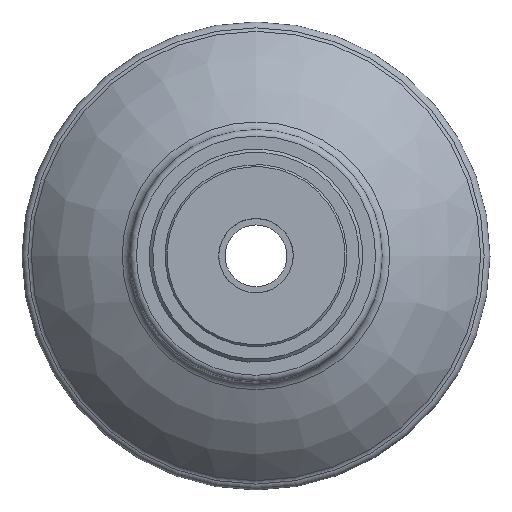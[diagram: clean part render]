
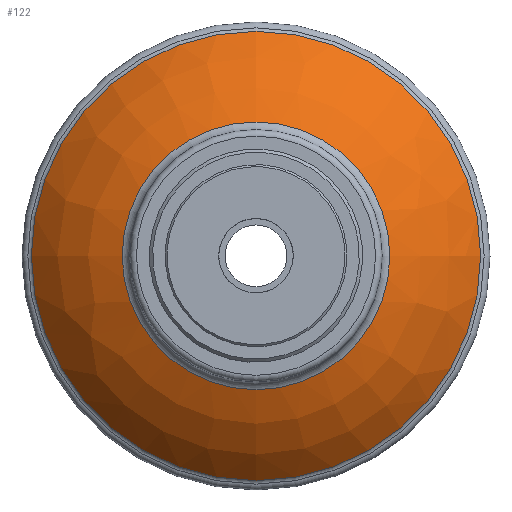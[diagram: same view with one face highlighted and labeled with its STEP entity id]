
A CAD part, top view. The second image highlights one B-rep face of the part: STEP entity #122.
In plain terms, the highlighted free-form (B-spline) face has degree [3, 3] with [4, 7] control points.
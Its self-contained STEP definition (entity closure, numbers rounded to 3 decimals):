
#122 = ADVANCED_FACE( '', ( #280, #281 ), #282, .T. );
#280 = FACE_OUTER_BOUND( '', #546, .T. );
#281 = FACE_OUTER_BOUND( '', #547, .T. );
#282 = ( BOUNDED_SURFACE(  )B_SPLINE_SURFACE( 3, 3, ( ( #550, #551, #552, #553, #554, #555, #556 ), ( #557, #558, #559, #560, #561, #562, #563 ), ( #564, #565, #566, #567, #568, #569, #570 ), ( #571, #572, #573, #574, #575, #576, #577 ) ), .UNSPECIFIED., .F., .T., .F. )B_SPLINE_SURFACE_WITH_KNOTS( ( 4, 4 ), ( 4, 3, 4 ), ( 0., 6.283 ), ( 0.667, 0.936, 1.206 ), .UNSPECIFIED. )GEOMETRIC_REPRESENTATION_ITEM(  )RATIONAL_B_SPLINE_SURFACE( ( ( 1., 0.333, 0.333, 1., 0.333, 0.333, 1. ), ( 0.976, 0.325, 0.325, 0.976, 0.325, 0.325, 0.976 ), ( 0.976, 0.325, 0.325, 0.976, 0.325, 0.325, 0.976 ), ( 1., 0.333, 0.333, 1., 0.333, 0.333, 1. ) ) )REPRESENTATION_ITEM( '' )SURFACE(  ) );
#546 = EDGE_LOOP( '', ( #860 ) );
#547 = EDGE_LOOP( '', ( #861 ) );
#550 = CARTESIAN_POINT( '', ( 20.59, 0., -3.808 ) );
#551 = CARTESIAN_POINT( '', ( 20.59, 41.18, -3.808 ) );
#552 = CARTESIAN_POINT( '', ( -20.59, 41.18, -3.808 ) );
#553 = CARTESIAN_POINT( '', ( -20.59, 0., -3.808 ) );
#554 = CARTESIAN_POINT( '', ( -20.59, -41.18, -3.808 ) );
#555 = CARTESIAN_POINT( '', ( 20.59, -41.18, -3.808 ) );
#556 = CARTESIAN_POINT( '', ( 20.59, 0., -3.808 ) );
#557 = CARTESIAN_POINT( '', ( 26.122, 0., -5.922 ) );
#558 = CARTESIAN_POINT( '', ( 26.122, 52.244, -5.922 ) );
#559 = CARTESIAN_POINT( '', ( -26.122, 52.244, -5.922 ) );
#560 = CARTESIAN_POINT( '', ( -26.122, 0., -5.922 ) );
#561 = CARTESIAN_POINT( '', ( -26.122, -52.244, -5.922 ) );
#562 = CARTESIAN_POINT( '', ( 26.122, -52.244, -5.922 ) );
#563 = CARTESIAN_POINT( '', ( 26.122, 0., -5.922 ) );
#564 = CARTESIAN_POINT( '', ( 30.892, 0., -9.432 ) );
#565 = CARTESIAN_POINT( '', ( 30.892, 61.784, -9.432 ) );
#566 = CARTESIAN_POINT( '', ( -30.892, 61.784, -9.432 ) );
#567 = CARTESIAN_POINT( '', ( -30.892, 0., -9.432 ) );
#568 = CARTESIAN_POINT( '', ( -30.892, -61.784, -9.432 ) );
#569 = CARTESIAN_POINT( '', ( 30.892, -61.784, -9.432 ) );
#570 = CARTESIAN_POINT( '', ( 30.892, 0., -9.432 ) );
#571 = CARTESIAN_POINT( '', ( 34.556, 0., -14.085 ) );
#572 = CARTESIAN_POINT( '', ( 34.556, 69.112, -14.085 ) );
#573 = CARTESIAN_POINT( '', ( -34.556, 69.112, -14.085 ) );
#574 = CARTESIAN_POINT( '', ( -34.556, 0., -14.085 ) );
#575 = CARTESIAN_POINT( '', ( -34.556, -69.112, -14.085 ) );
#576 = CARTESIAN_POINT( '', ( 34.556, -69.112, -14.085 ) );
#577 = CARTESIAN_POINT( '', ( 34.556, 0., -14.085 ) );
#860 = ORIENTED_EDGE( '', *, *, #1136, .F. );
#861 = ORIENTED_EDGE( '', *, *, #1137, .T. );
#1136 = EDGE_CURVE( '', #1267, #1267, #1268, .T. );
#1137 = EDGE_CURVE( '', #1269, #1269, #1270, .T. );
#1267 = VERTEX_POINT( '', #1429 );
#1268 = CIRCLE( '', #1430, 20.59 );
#1269 = VERTEX_POINT( '', #1431 );
#1270 = CIRCLE( '', #1432, 34.556 );
#1429 = CARTESIAN_POINT( '', ( 20.59, 0., -3.808 ) );
#1430 = AXIS2_PLACEMENT_3D( '', #1600, #1601, #1602 );
#1431 = CARTESIAN_POINT( '', ( 34.556, 0., -14.085 ) );
#1432 = AXIS2_PLACEMENT_3D( '', #1603, #1604, #1605 );
#1600 = CARTESIAN_POINT( '', ( 0., 0., -3.808 ) );
#1601 = DIRECTION( '', ( 0., 0., 1. ) );
#1602 = DIRECTION( '', ( 1., 0., 0. ) );
#1603 = CARTESIAN_POINT( '', ( 0., 0., -14.085 ) );
#1604 = DIRECTION( '', ( 0., 0., 1. ) );
#1605 = DIRECTION( '', ( 1., 0., 0. ) );
